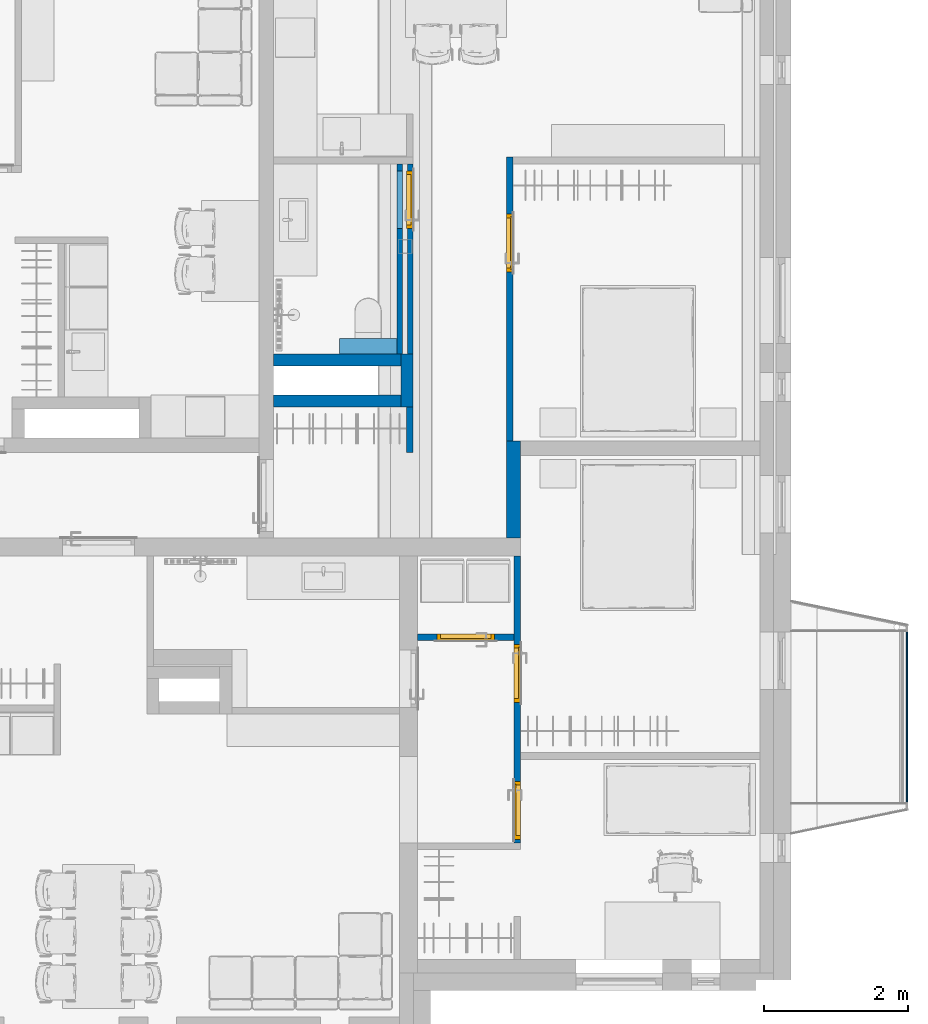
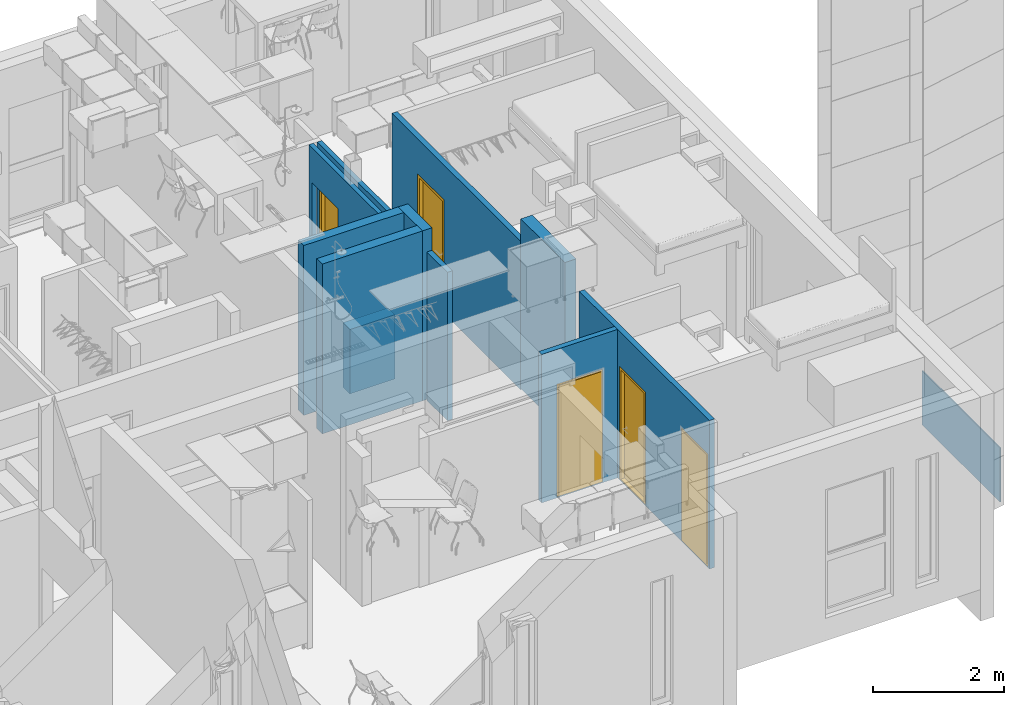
# One storey, part 7 of 125: 12 walls, 5 doors, 6 openings.
"""IFC2X3 building model written with IfcOpenShell, lengths in millimetres."""

from ifc_helpers import new_model, entity, si_unit, converted_unit, direction, frame, frame_2d, origin, place, context, subcontext, project, spatial, rectangle, extrude, faceted_brep, source, transform, mapped, material, layer, layer_set, layer_usage, type_object, type_shapes, element, fill, save


model = new_model("IFC2X3")

# Units and contexts
model_context = context("Model", 3, precision=0.01, world=origin(), true_north=direction((6.123233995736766e-17, 1.0)))
plan_context = context("Plan", 3, precision=0.01, world=origin(), true_north=direction((6.123233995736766e-17, 1.0)))
body_context = subcontext(model_context, "Body", "Model", "MODEL_VIEW")
ifc_project = project(units=[si_unit("LENGTHUNIT", "METRE", prefix="MILLI"), converted_unit("PLANEANGLEUNIT", "DEGREE", entity("IfcPlaneAngleMeasure", 0.017453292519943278), si_unit("PLANEANGLEUNIT", "RADIAN"), dimensions=[0, 0, 0, 0, 0, 0, 0]), si_unit("AREAUNIT", "SQUARE_METRE")], contexts=[model_context, plan_context])

# Site, building, storey
site_placement = place(None, origin())
site = spatial("IfcSite", under=ifc_project, at=site_placement, Name="Default", CompositionType="ELEMENT")
building_placement = place(site_placement, origin())
building = spatial("IfcBuilding", under=site, at=building_placement, CompositionType="ELEMENT")
storey_placement = place(building_placement, frame((0.0, 0.0, 3125.0)))
storey = spatial("IfcBuildingStorey", under=building, at=storey_placement, Name="2K", CompositionType="ELEMENT", Elevation=3125.0)

# Wall
ifc_material_1 = material(Name="_K. Väisviimistlus. Krohv. Valge")
ifc_layer_1 = layer(ifc_material_1, 5.0)
ifc_material_2 = material(Name="_K. Müüritis. Väikeplokk. Betoon-õõnesplokk")
ifc_layer_2 = layer(ifc_material_2, 190.00000000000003)
ifc_layer_3 = layer(ifc_material_1, 5.0)
ifc_layer_set_1 = layer_set([ifc_layer_1, ifc_layer_2, ifc_layer_3], Name="Basic Wall:SS-01. 190")
ifc_layer_usage_1 = layer_usage(ifc_layer_set_1, "AXIS2", "NEGATIVE", 100.00000000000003)
wall_type_1 = type_object("IfcWallType", Name="Basic Wall:SS-01. 190", PredefinedType="STANDARD", material=ifc_layer_set_1)
wall_1_placement = place(storey_placement, frame((13480.0, 6649.99995949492, 0.0), z_axis=(0.0, 0.0, 1.0), x_axis=(0.0, 1.0, 0.0)))
element("IfcWallStandardCase", 1, at=wall_1_placement, inside=storey, type_object=wall_type_1, material=ifc_layer_usage_1, Name="Basic Wall:SS-01. 190", ObjectType="Basic Wall:SS-01. 190", context=body_context, shape_type="SweptSolid", body=[
    extrude(rectangle(XDim=1350.0000000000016, YDim=200.00000000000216, at=frame_2d((675.0000000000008, 7.105427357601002e-15), x_axis=(-1.0, 0.0))), origin(), (0.0, 0.0, 1.0), 3169.9999999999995),
])

# Wall, opening, door
ifc_material_3 = material(Name="_K. Ehitusplaat. Kipsplaat. Erikõva")
ifc_layer_4 = layer(ifc_material_3, 13.000000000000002)
ifc_material_4 = material(Name="_K. Soojustus. Mineraalvill")
ifc_layer_5 = layer(ifc_material_4, 66.0)
ifc_layer_6 = layer(ifc_material_3, 13.000000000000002)
ifc_layer_set_2 = layer_set([ifc_layer_4, ifc_layer_5, ifc_layer_6], Name="Basic Wall:SS-401")
ifc_layer_usage_2 = layer_usage(ifc_layer_set_2, "AXIS2", "NEGATIVE", 46.00000000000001)
wall_type_2 = type_object("IfcWallType", Name="Basic Wall:SS-401", PredefinedType="STANDARD", material=ifc_layer_set_2)
wall_2_placement = place(storey_placement, frame((13426.0, 7999.999959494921, -20.0), z_axis=(0.0, 0.0, 1.0), x_axis=(0.0, 1.0, 0.0)))
wall_2 = element("IfcWallStandardCase", 2, at=wall_2_placement, inside=storey, type_object=wall_type_2, material=ifc_layer_usage_2, Name="Basic Wall:SS-401", ObjectType="Basic Wall:SS-401", context=body_context, shape_type="SweptSolid", body=[
    extrude(rectangle(XDim=3940.000040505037, YDim=92.00000000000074, at=frame_2d((1970.0000202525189, 3.552713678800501e-14), x_axis=(-1.0, 0.0))), origin(), (0.0, 0.0, 1.0), 2769.9999999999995),
])
opening_1_placement = place(wall_2_placement, frame((-7999.999959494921, 13426.0, 20.0), z_axis=(0.0, 0.0, 1.0), x_axis=(0.0, -1.0, 0.0)))
opening_1 = element("IfcOpeningElement", 3, at=opening_1_placement, cuts=wall_2, Name="Basic Wall:SS-401", ObjectType="Opening", context=body_context, shape_type="Brep", body=[
    faceted_brep([(12380.0, 10348.0, 2100.0), (12380.0, 11148.0, 2100.0), (12380.0, 11148.0, 0.0), (12380.0, 10348.0, 0.0), (14472.0, 10348.0, 0.0), (14472.0, 10348.0, 2100.0), (14472.0, 11148.0, 0.0), (14472.0, 11148.0, 2100.0)], [[[0, 1, 2, 3]], [[3, 4, 5, 0]], [[2, 6, 4, 3]], [[1, 7, 6, 2]], [[5, 7, 1, 0]], [[7, 5, 4, 6]]]),
])
ifc_material_5 = material(Name="_K. Puit. Peitsitud ja lakitud")
door_style_1 = type_object("IfcDoorStyle", Name="HR_Generic_Hinged_Single:Default. Manteluks lävepakuga. 800 x 2100 mm. Right", ConstructionType="NOTDEFINED", OperationType="NOTDEFINED", ParameterTakesPrecedence=False, Sizeable=False, material=ifc_material_5)
shared_shape_1 = source(origin(), body_context, "Body", "Brep", [
    faceted_brep([(765.0, 1092.0, 20.0), (35.0, 1092.0, 20.0), (35.0, 1062.0, 20.0), (50.0, 1062.0, 20.0), (50.0, 1000.0, 20.0), (750.0, 1000.0, 20.0), (750.0, 1062.0, 20.0), (765.0, 1062.0, 20.0), (35.0, 1092.0, 0.0), (765.0, 1092.0, 0.0), (765.0, 1062.0, 0.0), (750.0, 1062.0, 0.0), (750.0, 1000.0, 0.0), (50.0, 1000.0, 0.0), (50.0, 1062.0, 0.0), (35.0, 1062.0, 0.0)], [[[0, 1, 2, 3, 4, 5, 6, 7]], [[8, 9, 10, 11, 12, 13, 14, 15]], [[1, 0, 9, 8]], [[5, 4, 13, 12]], [[2, 1, 8, 15]], [[0, 7, 10, 9]], [[3, 14, 13, 4]], [[14, 3, 2, 15]], [[6, 11, 10, 7]], [[11, 6, 5, 12]]]),
    faceted_brep([(37.0, 1062.0, 2060.0), (37.0, 1062.0, 25.0), (763.0, 1062.0, 25.0), (763.0, 1062.0, 2060.0), (27.0, 1102.0, 25.0), (27.0, 1102.0, 2070.0), (773.0, 1102.0, 2070.0), (773.0, 1102.0, 25.0), (37.0, 1092.0, 2060.0), (37.0, 1092.0, 25.0), (27.0, 1092.0, 25.0), (773.0, 1092.0, 25.0), (763.0, 1092.0, 25.0), (763.0, 1092.0, 2060.0), (27.0, 1092.0, 2070.0), (773.0, 1092.0, 2070.0)], [[[0, 1, 2, 3]], [[4, 5, 6, 7]], [[1, 0, 8, 9]], [[2, 1, 9, 10, 4, 7, 11, 12]], [[3, 2, 12, 13]], [[0, 3, 13, 8]], [[14, 10, 9, 8, 13, 12, 11, 15]], [[6, 5, 14, 15]], [[7, 6, 15, 11]], [[5, 4, 10, 14]]]),
    faceted_brep([(800.0, 1000.0, 0.0), (750.0, 1000.0, 0.0), (750.0, 1062.0, 0.0), (765.0, 1062.0, 0.0), (765.0, 1092.0, 0.0), (800.0, 1092.0, 0.0), (800.0, 1000.0, 2100.0), (0.0, 1000.0, 2100.0), (0.0, 1000.0, 0.0), (50.0, 1000.0, 0.0), (50.0, 1000.0, 2050.0), (750.0, 1000.0, 2050.0), (750.0, 1062.0, 2050.0), (35.0, 1062.0, 2065.0), (765.0, 1062.0, 2065.0), (50.0, 1062.0, 2050.0), (50.0, 1062.0, 0.0), (35.0, 1062.0, 0.0), (765.0, 1092.0, 2065.0), (0.0, 1092.0, 0.0), (0.0, 1092.0, 2100.0), (800.0, 1092.0, 2100.0), (35.0, 1092.0, 2065.0), (35.0, 1092.0, 0.0)], [[[0, 1, 2, 3, 4, 5]], [[1, 0, 6, 7, 8, 9, 10, 11]], [[1, 11, 12, 2]], [[13, 14, 3, 2, 12, 15, 16, 17]], [[3, 14, 18, 4]], [[19, 20, 21, 5, 4, 18, 22, 23]], [[0, 5, 21, 6]], [[8, 19, 23, 17, 16, 9]], [[19, 8, 7, 20]], [[13, 17, 23, 22]], [[10, 9, 16, 15]], [[7, 6, 21, 20]], [[11, 10, 15, 12]], [[14, 13, 22, 18]]]),
])
type_shapes(door_style_1, [shared_shape_1])
door_1_placement = place(opening_1_placement, frame((12380.0, 11148.0, 0.0), z_axis=(0.0, 0.0, 1.0), x_axis=(0.0, -1.0, 0.0)))
door_1 = element("IfcDoor", 4, at=door_1_placement, inside=storey, type_object=door_style_1, material=ifc_material_5, Name="HR_Generic_Hinged_Single:Default. Manteluks lävepakuga. 800 x 2100 mm. Right", ObjectType="HR_Generic_Hinged_Single:Default. Manteluks lävepakuga. 800 x 2100 mm. Right", OverallHeight=2130.000000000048, OverallWidth=860.0000000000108, context=body_context, shape_type="MappedRepresentation", body=[
    mapped(shared_shape_1, transform((0.0, 0.0, 0.0), scale=1.0)),
])
fill(opening_1, door_1)

# Wall
ifc_layer_usage_3 = layer_usage(ifc_layer_set_2, "AXIS2", "NEGATIVE", 46.00000000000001)
wall_3_placement = place(storey_placement, frame((12042.0, 7839.999959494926, -20.0), z_axis=(0.0, 0.0, 1.0), x_axis=(0.0, 1.0, 0.0)))
element("IfcWallStandardCase", 5, at=wall_3_placement, inside=storey, type_object=wall_type_2, material=ifc_layer_usage_3, Name="Basic Wall:SS-401", ObjectType="Basic Wall:SS-401", context=body_context, shape_type="SweptSolid", body=[
    extrude(rectangle(XDim=630.000040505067, YDim=92.00000000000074, at=frame_2d((315.0000202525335, 5.258016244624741e-13), x_axis=(-1.0, 0.0))), origin(), (0.0, 0.0, 1.0), 2769.9999999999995),
])

# Wall, openings, doors
ifc_layer_usage_4 = layer_usage(ifc_layer_set_2, "AXIS2", "NEGATIVE", 46.00000000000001)
wall_4_placement = place(storey_placement, frame((13534.0, 2419.9999594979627, -20.0), z_axis=(0.0, 0.0, 1.0), x_axis=(0.0, 1.0, 0.0)))
wall_4 = element("IfcWallStandardCase", 6, at=wall_4_placement, inside=storey, type_object=wall_type_2, material=ifc_layer_usage_4, Name="Basic Wall:SS-401", ObjectType="Basic Wall:SS-401", context=body_context, shape_type="SweptSolid", body=[
    extrude(rectangle(XDim=3979.9999999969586, YDim=92.00000000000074, at=frame_2d((1989.9999999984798, 7.105427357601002e-14), x_axis=(-1.0, 0.0))), origin(), (0.0, 0.0, 1.0), 2769.9999999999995),
])
opening_2_placement = place(wall_4_placement, frame((-2419.9999594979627, 13534.0, 20.0), z_axis=(0.0, 0.0, 1.0), x_axis=(0.0, -1.0, 0.0)))
opening_2 = element("IfcOpeningElement", 7, at=opening_2_placement, cuts=wall_4, Name="Basic Wall:SS-401", ObjectType="Opening", context=body_context, shape_type="Brep", body=[
    faceted_brep([(12488.0, 4372.0, 2100.0), (12488.0, 5172.0, 2100.0), (12488.0, 5172.0, 0.0), (12488.0, 4372.0, 0.0), (14580.0, 4372.0, 0.0), (14580.0, 4372.0, 2100.0), (14580.0, 5172.0, 0.0), (14580.0, 5172.0, 2100.0)], [[[0, 1, 2, 3]], [[3, 4, 5, 0]], [[2, 6, 4, 3]], [[1, 7, 6, 2]], [[5, 7, 1, 0]], [[7, 5, 4, 6]]]),
])
opening_3_placement = place(wall_4_placement, frame((-2419.9999594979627, 13534.0, 20.0), z_axis=(0.0, 0.0, 1.0), x_axis=(0.0, -1.0, 0.0)))
opening_3 = element("IfcOpeningElement", 8, at=opening_3_placement, cuts=wall_4, Name="Basic Wall:SS-401", ObjectType="Opening", context=body_context, shape_type="Brep", body=[
    faceted_brep([(14580.0, 3269.999959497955, 2100.0), (14580.0, 2469.999959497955, 2100.0), (14580.0, 2469.999959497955, 0.0), (14580.0, 3269.999959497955, 0.0), (12488.0, 3269.9999594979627, 0.0), (12488.0, 3269.9999594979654, 2100.0), (12488.0, 2469.9999594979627, 0.0), (12488.0, 2469.9999594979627, 2100.0)], [[[0, 1, 2, 3]], [[3, 4, 5, 0]], [[2, 6, 4, 3]], [[1, 7, 6, 2]], [[5, 7, 1, 0]], [[7, 5, 4, 6]]]),
])
door_style_2 = type_object("IfcDoorStyle", Name="HR_Generic_Hinged_Single:Default. Manteluks lävepakuga. 800 x 2100 mm. Right", ConstructionType="NOTDEFINED", OperationType="NOTDEFINED", ParameterTakesPrecedence=False, Sizeable=False, material=ifc_material_5)
shared_shape_2 = source(origin(), body_context, "Body", "Brep", [
    faceted_brep([(765.0, -1000.0, 20.0), (35.0, -1000.0, 20.0), (35.0, -1030.0, 20.0), (50.0, -1030.0, 20.0), (50.0, -1092.0, 20.0), (750.0, -1092.0, 20.0), (750.0, -1030.0, 20.0), (765.0, -1030.0, 20.0), (35.0, -1000.0, 0.0), (765.0, -1000.0, 0.0), (765.0, -1030.0, 0.0), (750.0, -1030.0, 0.0), (750.0, -1092.0, 0.0), (50.0, -1092.0, 0.0), (50.0, -1030.0, 0.0), (35.0, -1030.0, 0.0)], [[[0, 1, 2, 3, 4, 5, 6, 7]], [[8, 9, 10, 11, 12, 13, 14, 15]], [[1, 0, 9, 8]], [[5, 4, 13, 12]], [[2, 1, 8, 15]], [[0, 7, 10, 9]], [[3, 14, 13, 4]], [[14, 3, 2, 15]], [[6, 11, 10, 7]], [[11, 6, 5, 12]]]),
    faceted_brep([(37.0, -1030.0, 2060.0), (37.0, -1030.0, 25.0), (763.0, -1030.0, 25.0), (763.0, -1030.0, 2060.0), (27.0, -990.0, 25.0), (27.0, -990.0, 2070.0), (773.0, -990.0, 2070.0), (773.0, -990.0, 25.0), (37.0, -1000.0, 2060.0), (37.0, -1000.0, 25.0), (27.0, -1000.0, 25.0), (773.0, -1000.0, 25.0), (763.0, -1000.0, 25.0), (763.0, -1000.0, 2060.0), (27.0, -1000.0, 2070.0), (773.0, -1000.0, 2070.0)], [[[0, 1, 2, 3]], [[4, 5, 6, 7]], [[1, 0, 8, 9]], [[2, 1, 9, 10, 4, 7, 11, 12]], [[3, 2, 12, 13]], [[0, 3, 13, 8]], [[14, 10, 9, 8, 13, 12, 11, 15]], [[6, 5, 14, 15]], [[7, 6, 15, 11]], [[5, 4, 10, 14]]]),
    faceted_brep([(800.0, -1092.0, 0.0), (750.0, -1092.0, 0.0), (750.0, -1030.0, 0.0), (765.0, -1030.0, 0.0), (765.0, -1000.0, 0.0), (800.0, -1000.0, 0.0), (800.0, -1092.0, 2100.0), (0.0, -1092.0, 2100.0), (0.0, -1092.0, 0.0), (50.0, -1092.0, 0.0), (50.0, -1092.0, 2050.0), (750.0, -1092.0, 2050.0), (750.0, -1030.0, 2050.0), (35.0, -1030.0, 2065.0), (765.0, -1030.0, 2065.0), (50.0, -1030.0, 2050.0), (50.0, -1030.0, 0.0), (35.0, -1030.0, 0.0), (765.0, -1000.0, 2065.0), (0.0, -1000.0, 0.0), (0.0, -1000.0, 2100.0), (800.0, -1000.0, 2100.0), (35.0, -1000.0, 2065.0), (35.0, -1000.0, 0.0)], [[[0, 1, 2, 3, 4, 5]], [[1, 0, 6, 7, 8, 9, 10, 11]], [[1, 11, 12, 2]], [[13, 14, 3, 2, 12, 15, 16, 17]], [[3, 14, 18, 4]], [[19, 20, 21, 5, 4, 18, 22, 23]], [[0, 5, 21, 6]], [[8, 19, 23, 17, 16, 9]], [[19, 8, 7, 20]], [[13, 17, 23, 22]], [[10, 9, 16, 15]], [[7, 6, 21, 20]], [[11, 10, 15, 12]], [[14, 13, 22, 18]]]),
])
type_shapes(door_style_2, [shared_shape_2])
door_2_placement = place(opening_3_placement, frame((12488.0, 2469.999959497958, 0.0), z_axis=(0.0, 0.0, 1.0), x_axis=(0.0, 1.0, 0.0)))
door_2 = element("IfcDoor", 9, at=door_2_placement, inside=storey, type_object=door_style_2, material=ifc_material_5, Name="HR_Generic_Hinged_Single:Default. Manteluks lävepakuga. 800 x 2100 mm. Right", ObjectType="HR_Generic_Hinged_Single:Default. Manteluks lävepakuga. 800 x 2100 mm. Right", OverallHeight=2130.000000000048, OverallWidth=860.0000000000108, context=body_context, shape_type="MappedRepresentation", body=[
    mapped(shared_shape_2, transform((0.0, 0.0, 0.0), scale=1.0)),
])
fill(opening_3, door_2)
door_style_3 = type_object("IfcDoorStyle", Name="HR_Generic_Hinged_Single:Default. Manteluks lävepakuga. 800 x 2100 mm. Left", ConstructionType="NOTDEFINED", OperationType="NOTDEFINED", ParameterTakesPrecedence=False, Sizeable=False, material=ifc_material_5)
shared_shape_3 = source(origin(), body_context, "Body", "Brep", [
    faceted_brep([(765.0, 1092.0, 20.0), (35.0, 1092.0, 20.0), (35.0, 1062.0, 20.0), (50.0, 1062.0, 20.0), (50.0, 1000.0, 20.0), (750.0, 1000.0, 20.0), (750.0, 1062.0, 20.0), (765.0, 1062.0, 20.0), (35.0, 1092.0, 0.0), (765.0, 1092.0, 0.0), (765.0, 1062.0, 0.0), (750.0, 1062.0, 0.0), (750.0, 1000.0, 0.0), (50.0, 1000.0, 0.0), (50.0, 1062.0, 0.0), (35.0, 1062.0, 0.0)], [[[0, 1, 2, 3, 4, 5, 6, 7]], [[8, 9, 10, 11, 12, 13, 14, 15]], [[1, 0, 9, 8]], [[5, 4, 13, 12]], [[2, 1, 8, 15]], [[0, 7, 10, 9]], [[3, 14, 13, 4]], [[14, 3, 2, 15]], [[6, 11, 10, 7]], [[11, 6, 5, 12]]]),
    faceted_brep([(37.0, 1062.0, 2060.0), (37.0, 1062.0, 25.0), (763.0, 1062.0, 25.0), (763.0, 1062.0, 2060.0), (27.0, 1102.0, 25.0), (27.0, 1102.0, 2070.0), (773.0, 1102.0, 2070.0), (773.0, 1102.0, 25.0), (37.0, 1092.0, 2060.0), (37.0, 1092.0, 25.0), (27.0, 1092.0, 25.0), (773.0, 1092.0, 25.0), (763.0, 1092.0, 25.0), (763.0, 1092.0, 2060.0), (27.0, 1092.0, 2070.0), (773.0, 1092.0, 2070.0)], [[[0, 1, 2, 3]], [[4, 5, 6, 7]], [[1, 0, 8, 9]], [[2, 1, 9, 10, 4, 7, 11, 12]], [[3, 2, 12, 13]], [[0, 3, 13, 8]], [[14, 10, 9, 8, 13, 12, 11, 15]], [[6, 5, 14, 15]], [[7, 6, 15, 11]], [[5, 4, 10, 14]]]),
    faceted_brep([(800.0, 1000.0, 0.0), (750.0, 1000.0, 0.0), (750.0, 1062.0, 0.0), (765.0, 1062.0, 0.0), (765.0, 1092.0, 0.0), (800.0, 1092.0, 0.0), (800.0, 1000.0, 2100.0), (0.0, 1000.0, 2100.0), (0.0, 1000.0, 0.0), (50.0, 1000.0, 0.0), (50.0, 1000.0, 2050.0), (750.0, 1000.0, 2050.0), (750.0, 1062.0, 2050.0), (35.0, 1062.0, 2065.0), (765.0, 1062.0, 2065.0), (50.0, 1062.0, 2050.0), (50.0, 1062.0, 0.0), (35.0, 1062.0, 0.0), (765.0, 1092.0, 2065.0), (0.0, 1092.0, 0.0), (0.0, 1092.0, 2100.0), (800.0, 1092.0, 2100.0), (35.0, 1092.0, 2065.0), (35.0, 1092.0, 0.0)], [[[0, 1, 2, 3, 4, 5]], [[1, 0, 6, 7, 8, 9, 10, 11]], [[1, 11, 12, 2]], [[13, 14, 3, 2, 12, 15, 16, 17]], [[3, 14, 18, 4]], [[19, 20, 21, 5, 4, 18, 22, 23]], [[0, 5, 21, 6]], [[8, 19, 23, 17, 16, 9]], [[19, 8, 7, 20]], [[13, 17, 23, 22]], [[10, 9, 16, 15]], [[7, 6, 21, 20]], [[11, 10, 15, 12]], [[14, 13, 22, 18]]]),
])
type_shapes(door_style_3, [shared_shape_3])
door_3_placement = place(opening_2_placement, frame((12488.0, 5172.0, 0.0), z_axis=(0.0, 0.0, 1.0), x_axis=(0.0, -1.0, 0.0)))
door_3 = element("IfcDoor", 10, at=door_3_placement, inside=storey, type_object=door_style_3, material=ifc_material_5, Name="HR_Generic_Hinged_Single:Default. Manteluks lävepakuga. 800 x 2100 mm. Left", ObjectType="HR_Generic_Hinged_Single:Default. Manteluks lävepakuga. 800 x 2100 mm. Left", OverallHeight=2130.000000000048, OverallWidth=860.0000000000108, context=body_context, shape_type="MappedRepresentation", body=[
    mapped(shared_shape_3, transform((0.0, 0.0, 0.0), scale=1.0)),
])
fill(opening_2, door_3)

# Wall, opening, door
ifc_layer_usage_5 = layer_usage(ifc_layer_set_2, "AXIS2", "NEGATIVE", 46.00000000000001)
wall_5_placement = place(storey_placement, frame((13488.0, 5273.999959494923, -20.0), z_axis=(0.0, 0.0, 1.0), x_axis=(-1.0, 0.0, 0.0)))
wall_5 = element("IfcWallStandardCase", 11, at=wall_5_placement, inside=storey, type_object=wall_type_2, material=ifc_layer_usage_5, Name="Basic Wall:SS-401", ObjectType="Basic Wall:SS-401", context=body_context, shape_type="SweptSolid", body=[
    extrude(rectangle(XDim=1338.0064650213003, YDim=92.00000000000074, at=frame_2d((669.0032325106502, 2.877698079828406e-13), x_axis=(-1.0, 0.0))), origin(), (0.0, 0.0, 1.0), 2769.9999999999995),
])
opening_4_placement = place(wall_5_placement, frame((13488.0, 5273.999959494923, 20.0), z_axis=(0.0, 0.0, 1.0), x_axis=(-1.0, 0.0, 0.0)))
opening_4 = element("IfcOpeningElement", 12, at=opening_4_placement, cuts=wall_5, Name="Basic Wall:SS-401", ObjectType="Opening", context=body_context, shape_type="Brep", body=[
    faceted_brep([(12418.996767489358, 6319.9999594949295, 2100.0), (13218.996767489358, 6319.999959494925, 2100.0), (13218.996767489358, 6319.999959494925, 0.0), (12418.996767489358, 6319.9999594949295, 0.0), (12418.99676748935, 4227.999959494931, 0.0), (12418.996767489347, 4227.999959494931, 2100.0), (13218.996767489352, 4227.999959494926, 0.0), (13218.996767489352, 4227.999959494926, 2100.0)], [[[0, 1, 2, 3]], [[3, 4, 5, 0]], [[2, 6, 4, 3]], [[1, 7, 6, 2]], [[5, 7, 1, 0]], [[7, 5, 4, 6]]]),
])
door_style_4 = type_object("IfcDoorStyle", Name="HR_Generic_Hinged_Single:Default. Manteluks lävepakuga. 800 x 2100 mm. Left", ConstructionType="NOTDEFINED", OperationType="NOTDEFINED", ParameterTakesPrecedence=False, Sizeable=False, material=ifc_material_5)
shared_shape_4 = source(origin(), body_context, "Body", "Brep", [
    faceted_brep([(765.0, -1000.0, 20.0), (35.0, -1000.0, 20.0), (35.0, -1030.0, 20.0), (50.0, -1030.0, 20.0), (50.0, -1092.0, 20.0), (750.0, -1092.0, 20.0), (750.0, -1030.0, 20.0), (765.0, -1030.0, 20.0), (35.0, -1000.0, 0.0), (765.0, -1000.0, 0.0), (765.0, -1030.0, 0.0), (750.0, -1030.0, 0.0), (750.0, -1092.0, 0.0), (50.0, -1092.0, 0.0), (50.0, -1030.0, 0.0), (35.0, -1030.0, 0.0)], [[[0, 1, 2, 3, 4, 5, 6, 7]], [[8, 9, 10, 11, 12, 13, 14, 15]], [[1, 0, 9, 8]], [[5, 4, 13, 12]], [[2, 1, 8, 15]], [[0, 7, 10, 9]], [[3, 14, 13, 4]], [[14, 3, 2, 15]], [[6, 11, 10, 7]], [[11, 6, 5, 12]]]),
    faceted_brep([(37.0, -1030.0, 2060.0), (37.0, -1030.0, 25.0), (763.0, -1030.0, 25.0), (763.0, -1030.0, 2060.0), (27.0, -990.0, 25.0), (27.0, -990.0, 2070.0), (773.0, -990.0, 2070.0), (773.0, -990.0, 25.0), (37.0, -1000.0, 2060.0), (37.0, -1000.0, 25.0), (27.0, -1000.0, 25.0), (773.0, -1000.0, 25.0), (763.0, -1000.0, 25.0), (763.0, -1000.0, 2060.0), (27.0, -1000.0, 2070.0), (773.0, -1000.0, 2070.0)], [[[0, 1, 2, 3]], [[4, 5, 6, 7]], [[1, 0, 8, 9]], [[2, 1, 9, 10, 4, 7, 11, 12]], [[3, 2, 12, 13]], [[0, 3, 13, 8]], [[14, 10, 9, 8, 13, 12, 11, 15]], [[6, 5, 14, 15]], [[7, 6, 15, 11]], [[5, 4, 10, 14]]]),
    faceted_brep([(800.0, -1092.0, 0.0), (750.0, -1092.0, 0.0), (750.0, -1030.0, 0.0), (765.0, -1030.0, 0.0), (765.0, -1000.0, 0.0), (800.0, -1000.0, 0.0), (800.0, -1092.0, 2100.0), (0.0, -1092.0, 2100.0), (0.0, -1092.0, 0.0), (50.0, -1092.0, 0.0), (50.0, -1092.0, 2050.0), (750.0, -1092.0, 2050.0), (750.0, -1030.0, 2050.0), (35.0, -1030.0, 2065.0), (765.0, -1030.0, 2065.0), (50.0, -1030.0, 2050.0), (50.0, -1030.0, 0.0), (35.0, -1030.0, 0.0), (765.0, -1000.0, 2065.0), (0.0, -1000.0, 0.0), (0.0, -1000.0, 2100.0), (800.0, -1000.0, 2100.0), (35.0, -1000.0, 2065.0), (35.0, -1000.0, 0.0)], [[[0, 1, 2, 3, 4, 5]], [[1, 0, 6, 7, 8, 9, 10, 11]], [[1, 11, 12, 2]], [[13, 14, 3, 2, 12, 15, 16, 17]], [[3, 14, 18, 4]], [[19, 20, 21, 5, 4, 18, 22, 23]], [[0, 5, 21, 6]], [[8, 19, 23, 17, 16, 9]], [[19, 8, 7, 20]], [[13, 17, 23, 22]], [[10, 9, 16, 15]], [[7, 6, 21, 20]], [[11, 10, 15, 12]], [[14, 13, 22, 18]]]),
])
type_shapes(door_style_4, [shared_shape_4])
door_4_placement = place(opening_4_placement, frame((13218.996767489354, 4227.999959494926, 0.0), z_axis=(0.0, 0.0, 1.0), x_axis=(-1.0, 0.0, 0.0)))
door_4 = element("IfcDoor", 13, at=door_4_placement, inside=storey, type_object=door_style_4, material=ifc_material_5, Name="HR_Generic_Hinged_Single:Default. Manteluks lävepakuga. 800 x 2100 mm. Left", ObjectType="HR_Generic_Hinged_Single:Default. Manteluks lävepakuga. 800 x 2100 mm. Left", OverallHeight=2130.000000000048, OverallWidth=860.0000000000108, context=body_context, shape_type="MappedRepresentation", body=[
    mapped(shared_shape_4, transform((0.0, 0.0, 0.0), scale=1.0)),
])
fill(opening_4, door_4)

ifc_layer_7 = layer(ifc_material_3, 13.000000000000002)
ifc_layer_8 = layer(ifc_material_4, 66.0)
ifc_layer_set_3 = layer_set([ifc_layer_7, ifc_layer_8], Name="Basic Wall:SS-402")
ifc_layer_usage_6 = layer_usage(ifc_layer_set_3, "AXIS2", "NEGATIVE", 39.50000000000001)
wall_type_3 = type_object("IfcWallType", Name="Basic Wall:SS-402", PredefinedType="STANDARD", material=ifc_layer_set_3)
wall_6_placement = place(storey_placement, frame((12048.499999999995, 11848.0, -20.0), z_axis=(0.0, 0.0, 1.0), x_axis=(0.0, -1.0, 0.0)))
wall_6 = element("IfcWallStandardCase", 14, at=wall_6_placement, inside=storey, type_object=wall_type_3, material=ifc_layer_usage_6, Name="Basic Wall:SS-402", ObjectType="Basic Wall:SS-402", context=body_context, shape_type="SweptSolid", body=[
    extrude(rectangle(XDim=2637.9999999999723, YDim=78.99999999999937, at=frame_2d((1318.9999999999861, 5.258016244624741e-13), x_axis=(-1.0, 0.0))), origin(), (0.0, 0.0, 1.0), 2769.9999999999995),
])
opening_5_placement = place(wall_6_placement, frame((11848.0, -12048.499999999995, 20.0), z_axis=(0.0, 0.0, 1.0), x_axis=(0.0, 1.0, 0.0)))
opening_5 = element("IfcOpeningElement", 15, at=opening_5_placement, cuts=wall_6, Name="Basic Wall:SS-402", ObjectType="Opening", context=body_context, shape_type="Brep", body=[
    faceted_brep([(10996.0, 10948.0, 2100.0), (10996.0, 11748.0, 2100.0), (10996.0, 11748.0, 0.0), (10996.0, 10948.0, 0.0), (13088.0, 10948.0, 0.0), (13088.0, 10948.0, 2100.0), (13088.0, 11748.0, 0.0), (13088.0, 11748.0, 2100.0)], [[[0, 1, 2, 3]], [[3, 4, 5, 0]], [[2, 6, 4, 3]], [[1, 7, 6, 2]], [[5, 7, 1, 0]], [[7, 5, 4, 6]]]),
])
door_style_5 = type_object("IfcDoorStyle", Name="HR_Generic_Hinged_Single:Default. Manteluks lävepakuga. 800 x 2100 mm. Right", ConstructionType="NOTDEFINED", OperationType="NOTDEFINED", ParameterTakesPrecedence=False, Sizeable=False, material=ifc_material_5)
shared_shape_5 = source(origin(), body_context, "Body", "Brep", [
    faceted_brep([(765.0, -1000.0, 20.0), (35.0, -1000.0, 20.0), (35.0, -1030.0, 20.0), (50.0, -1030.0, 20.0), (50.0, -1092.0, 20.0), (750.0, -1092.0, 20.0), (750.0, -1030.0, 20.0), (765.0, -1030.0, 20.0), (35.0, -1000.0, 0.0), (765.0, -1000.0, 0.0), (765.0, -1030.0, 0.0), (750.0, -1030.0, 0.0), (750.0, -1092.0, 0.0), (50.0, -1092.0, 0.0), (50.0, -1030.0, 0.0), (35.0, -1030.0, 0.0)], [[[0, 1, 2, 3, 4, 5, 6, 7]], [[8, 9, 10, 11, 12, 13, 14, 15]], [[1, 0, 9, 8]], [[5, 4, 13, 12]], [[2, 1, 8, 15]], [[0, 7, 10, 9]], [[3, 14, 13, 4]], [[14, 3, 2, 15]], [[6, 11, 10, 7]], [[11, 6, 5, 12]]]),
    faceted_brep([(37.0, -1030.0, 2060.0), (37.0, -1030.0, 25.0), (763.0, -1030.0, 25.0), (763.0, -1030.0, 2060.0), (27.0, -990.0, 25.0), (27.0, -990.0, 2070.0), (773.0, -990.0, 2070.0), (773.0, -990.0, 25.0), (37.0, -1000.0, 2060.0), (37.0, -1000.0, 25.0), (27.0, -1000.0, 25.0), (773.0, -1000.0, 25.0), (763.0, -1000.0, 25.0), (763.0, -1000.0, 2060.0), (27.0, -1000.0, 2070.0), (773.0, -1000.0, 2070.0)], [[[0, 1, 2, 3]], [[4, 5, 6, 7]], [[1, 0, 8, 9]], [[2, 1, 9, 10, 4, 7, 11, 12]], [[3, 2, 12, 13]], [[0, 3, 13, 8]], [[14, 10, 9, 8, 13, 12, 11, 15]], [[6, 5, 14, 15]], [[7, 6, 15, 11]], [[5, 4, 10, 14]]]),
    faceted_brep([(800.0, -1092.0, 0.0), (750.0, -1092.0, 0.0), (750.0, -1030.0, 0.0), (765.0, -1030.0, 0.0), (765.0, -1000.0, 0.0), (800.0, -1000.0, 0.0), (800.0, -1092.0, 2100.0), (0.0, -1092.0, 2100.0), (0.0, -1092.0, 0.0), (50.0, -1092.0, 0.0), (50.0, -1092.0, 2050.0), (750.0, -1092.0, 2050.0), (750.0, -1030.0, 2050.0), (35.0, -1030.0, 2065.0), (765.0, -1030.0, 2065.0), (50.0, -1030.0, 2050.0), (50.0, -1030.0, 0.0), (35.0, -1030.0, 0.0), (765.0, -1000.0, 2065.0), (0.0, -1000.0, 0.0), (0.0, -1000.0, 2100.0), (800.0, -1000.0, 2100.0), (35.0, -1000.0, 2065.0), (35.0, -1000.0, 0.0)], [[[0, 1, 2, 3, 4, 5]], [[1, 0, 6, 7, 8, 9, 10, 11]], [[1, 11, 12, 2]], [[13, 14, 3, 2, 12, 15, 16, 17]], [[3, 14, 18, 4]], [[19, 20, 21, 5, 4, 18, 22, 23]], [[0, 5, 21, 6]], [[8, 19, 23, 17, 16, 9]], [[19, 8, 7, 20]], [[13, 17, 23, 22]], [[10, 9, 16, 15]], [[7, 6, 21, 20]], [[11, 10, 15, 12]], [[14, 13, 22, 18]]]),
])
type_shapes(door_style_5, [shared_shape_5])
door_5_placement = place(opening_5_placement, frame((13088.0, 11748.0, 0.0), z_axis=(0.0, 0.0, 1.0), x_axis=(0.0, -1.0, 0.0)))
door_5 = element("IfcDoor", 16, at=door_5_placement, inside=storey, type_object=door_style_5, material=ifc_material_5, Name="HR_Generic_Hinged_Single:Default. Manteluks lävepakuga. 800 x 2100 mm. Right", ObjectType="HR_Generic_Hinged_Single:Default. Manteluks lävepakuga. 800 x 2100 mm. Right", OverallHeight=2130.000000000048, OverallWidth=860.0000000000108, context=body_context, shape_type="MappedRepresentation", body=[
    mapped(shared_shape_5, transform((0.0, 0.0, 0.0), scale=1.0)),
])
fill(opening_5, door_5)

# Wall, opening
ifc_layer_usage_7 = layer_usage(ifc_layer_set_3, "AXIS2", "POSITIVE", -39.50000000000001)
wall_7_placement = place(storey_placement, frame((11901.499999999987, 11848.0, -20.0), z_axis=(0.0, 0.0, 1.0), x_axis=(0.0, -1.0, 0.0)))
wall_7 = element("IfcWallStandardCase", 17, at=wall_7_placement, inside=storey, type_object=wall_type_3, material=ifc_layer_usage_7, Name="Basic Wall:SS-402", ObjectType="Basic Wall:SS-402", context=body_context, shape_type="SweptSolid", body=[
    extrude(rectangle(XDim=2637.9999999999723, YDim=78.99999999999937, at=frame_2d((1318.9999999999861, 3.801403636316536e-13), x_axis=(-1.0, 0.0))), origin(), (0.0, 0.0, 1.0), 2769.9999999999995),
])
opening_6_placement = place(wall_7_placement, frame((11848.0, -11901.500000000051, 20.0)))
element("IfcOpeningElement", 18, at=opening_6_placement, cuts=wall_7, Name="Basic Wall:SS-402", ObjectType="Opening", context=body_context, shape_type="Brep", body=[
    faceted_brep([(-10948.0, 10996.0, 2100.0), (-11748.0, 10996.0, 2100.0), (-11748.0, 10996.0, 0.0), (-10948.0, 10996.0, 0.0), (-10948.0, 13088.0, 0.0), (-10948.0, 13088.0, 2100.0), (-11748.0, 13088.0, 0.0), (-11748.0, 13088.0, 2100.0)], [[[0, 1, 2, 3]], [[3, 4, 5, 0]], [[2, 6, 4, 3]], [[1, 7, 6, 2]], [[5, 7, 1, 0]], [[7, 5, 4, 6]]]),
])

# Walls
ifc_layer_9 = layer(ifc_material_1, 10.0)
ifc_material_6 = material(Name="_K. Müüritis. Väikeplokk. Kergkruusplokk")
ifc_layer_10 = layer(ifc_material_6, 150.0)
ifc_layer_11 = layer(ifc_material_1, 10.0)
ifc_layer_set_4 = layer_set([ifc_layer_9, ifc_layer_10, ifc_layer_11], Name="Basic Wall:SS-03. Šahti sein")
ifc_layer_usage_8 = layer_usage(ifc_layer_set_4, "AXIS2", "NEGATIVE", 85.00000000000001)
wall_type_4 = type_object("IfcWallType", Name="Basic Wall:SS-03. Šahti sein", PredefinedType="STANDARD", material=ifc_layer_set_4)
wall_8_placement = place(storey_placement, frame((10150.0, 9125.0, 0.0)))
element("IfcWallStandardCase", 19, at=wall_8_placement, inside=storey, type_object=wall_type_4, material=ifc_layer_usage_8, Name="Basic Wall:SS-03. Šahti sein", ObjectType="Basic Wall:SS-03. Šahti sein", context=body_context, shape_type="SweptSolid", body=[
    extrude(rectangle(XDim=1768.0000000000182, YDim=170.00000000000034, at=frame_2d((884.0000000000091, 1.3500311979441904e-13), x_axis=(-1.0, 0.0))), origin(), (0.0, 0.0, 1.0), 3169.9999999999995),
])
ifc_layer_usage_9 = layer_usage(ifc_layer_set_4, "AXIS2", "NEGATIVE", 85.00000000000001)
wall_9_placement = place(storey_placement, frame((12003.0, 9210.0, 0.0), z_axis=(0.0, 0.0, 1.0), x_axis=(0.0, -1.0, 0.0)))
element("IfcWallStandardCase", 20, at=wall_9_placement, inside=storey, type_object=wall_type_4, material=ifc_layer_usage_9, Name="Basic Wall:SS-03. Šahti sein", ObjectType="Basic Wall:SS-03. Šahti sein", context=body_context, shape_type="SweptSolid", body=[
    extrude(rectangle(XDim=739.9999999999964, YDim=170.00000000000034, at=frame_2d((369.9999999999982, 4.973799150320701e-13), x_axis=(-1.0, 0.0))), origin(), (0.0, 0.0, 1.0), 3169.9999999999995),
])
ifc_layer_usage_10 = layer_usage(ifc_layer_set_4, "AXIS2", "POSITIVE", -85.00000000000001)
wall_10_placement = place(storey_placement, frame((10150.0, 8555.0, 0.0)))
element("IfcWallStandardCase", 21, at=wall_10_placement, inside=storey, type_object=wall_type_4, material=ifc_layer_usage_10, Name="Basic Wall:SS-03. Šahti sein", ObjectType="Basic Wall:SS-03. Šahti sein", context=body_context, shape_type="SweptSolid", body=[
    extrude(rectangle(XDim=1768.0000000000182, YDim=170.00000000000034, at=frame_2d((884.0000000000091, -2.5579538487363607e-13), x_axis=(-1.0, 0.0))), origin(), (0.0, 0.0, 1.0), 3169.9999999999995),
])
ifc_material_7 = material(Name="_K. Välisviimistlus. Alumiinium-komposiitplaat")
ifc_layer_12 = layer(ifc_material_7, 4.0)
ifc_material_8 = material(Name="_K. Õhk. Roov. Fassaadikatte alusroov. Horisontaalne. 25 mm")
ifc_layer_13 = layer(ifc_material_8, 16.0)
ifc_layer_set_5 = layer_set([ifc_layer_12, ifc_layer_13], Name="Basic Wall:VS-komposiit")
ifc_layer_usage_11 = layer_usage(ifc_layer_set_5, "AXIS2", "NEGATIVE", 10.000000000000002)
wall_type_5 = type_object("IfcWallType", Name="Basic Wall:VS-komposiit", PredefinedType="STANDARD")
wall_11_placement = place(storey_placement, frame((18942.0, 5351.353411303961, -1010.0), z_axis=(0.0, 0.0, 1.0), x_axis=(0.0, -1.0, 0.0)))
element("IfcWallStandardCase", 22, at=wall_11_placement, inside=storey, type_object=wall_type_5, material=ifc_layer_usage_11, Name="Basic Wall:VS-komposiit", ObjectType="Basic Wall:VS-komposiit", context=body_context, shape_type="SweptSolid", body=[
    extrude(rectangle(XDim=2379.349331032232, YDim=19.999999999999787, at=frame_2d((1189.674665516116, 9.174883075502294e-13), x_axis=(-1.0, 0.0))), origin(), (0.0, 0.0, 1.0), 1010.0),
])
ifc_layer_14 = layer(ifc_material_3, 13.000000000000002)
ifc_material_9 = material(Name="_K. Õhk. Roov. Fassaadikatte alusroov. Vertikaalne. 25 mm")
ifc_layer_15 = layer(ifc_material_9, 200.0)
ifc_layer_set_6 = layer_set([ifc_layer_14, ifc_layer_15], Name="Basic Wall:SS-403")
ifc_layer_usage_12 = layer_usage(ifc_layer_set_6, "AXIS2", "POSITIVE", -106.5)
wall_type_6 = type_object("IfcWallType", Name="Basic Wall:SS-403", PredefinedType="STANDARD", material=ifc_layer_set_6)
wall_12_placement = place(storey_placement, frame((11862.0, 9316.499999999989, -20.0), z_axis=(0.0, 0.0, 1.0), x_axis=(-1.0, 0.0, 0.0)))
element("IfcWallStandardCase", 23, at=wall_12_placement, inside=storey, type_object=wall_type_6, material=ifc_layer_usage_12, Name="Basic Wall:SS-403", ObjectType="Basic Wall:SS-403", context=body_context, shape_type="SweptSolid", body=[
    extrude(rectangle(XDim=800.0, YDim=212.99999999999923, at=frame_2d((400.0, 4.263256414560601e-14), x_axis=(-1.0, 0.0))), origin(), (0.0, 0.0, 1.0), 1200.0),
])

save(model, "model.ifc")
